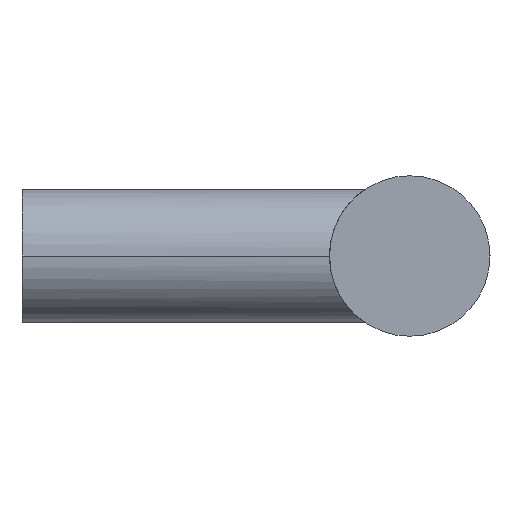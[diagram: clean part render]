
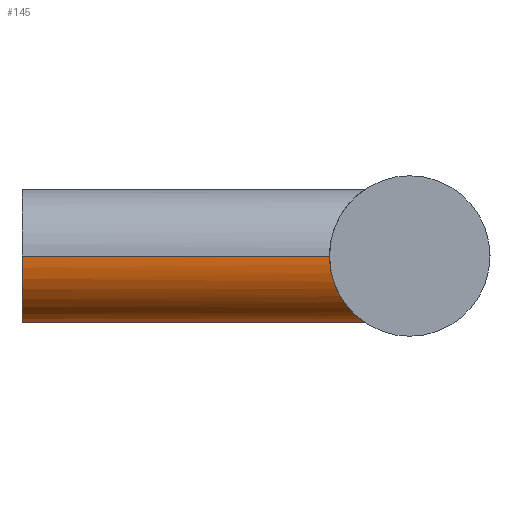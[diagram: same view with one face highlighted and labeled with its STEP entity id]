
A CAD part, left-side view. The second image highlights one B-rep face of the part: STEP entity #145.
In plain terms, the highlighted cylindrical face has radius 5 mm (diameter 10 mm), a partial arc.
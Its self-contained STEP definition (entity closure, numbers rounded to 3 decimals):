
#95 = EDGE_CURVE( '', #135, #163, #253, .T. );
#135 = VERTEX_POINT( '', #302 );
#137 = VERTEX_POINT( '', #304 );
#141 = EDGE_CURVE( '', #135, #181, #308, .T. );
#145 = ADVANCED_FACE( '', ( #312 ), #313, .T. );
#161 = EDGE_CURVE( '', #137, #163, #329, .T. );
#163 = VERTEX_POINT( '', #331 );
#181 = VERTEX_POINT( '', #355 );
#189 = EDGE_CURVE( '', #137, #181, #363, .T. );
#253 = LINE( '', #422, #423 );
#302 = CARTESIAN_POINT( '', ( 5., 0., 0. ) );
#304 = CARTESIAN_POINT( '', ( -5., -23., 0. ) );
#308 = CIRCLE( '', #519, 5. );
#312 = FACE_OUTER_BOUND( '', #524, .T. );
#313 = CYLINDRICAL_SURFACE( '', #525, 5. );
#329 = B_SPLINE_CURVE_WITH_KNOTS( '', 3, ( #549, #550, #551, #552, #553, #554, #555, #556, #557, #558, #559, #560, #561, #562, #563, #564, #565, #566, #567, #568, #569, #570, #571, #572, #573, #574, #575, #576, #577, #578, #579, #580, #581, #582 ), .UNSPECIFIED., .F., .F., ( 4, 2, 2, 2, 2, 2, 2, 2, 2, 2, 2, 2, 2, 2, 2, 2, 4 ), ( 8.161, 9.16, 10.159, 11.158, 12.157, 13.198, 14.239, 15.28, 16.322, 17.363, 18.404, 19.446, 20.487, 21.486, 22.485, 23.484, 24.483 ), .UNSPECIFIED. );
#331 = CARTESIAN_POINT( '', ( 5., -23., 0. ) );
#355 = CARTESIAN_POINT( '', ( -5., 0., 0. ) );
#363 = LINE( '', #639, #640 );
#422 = CARTESIAN_POINT( '', ( 5., 0., 0. ) );
#423 = VECTOR( '', #758, 1. );
#519 = AXIS2_PLACEMENT_3D( '', #833, #834, #835 );
#524 = EDGE_LOOP( '', ( #840, #841, #842, #843 ) );
#525 = AXIS2_PLACEMENT_3D( '', #844, #845, #846 );
#549 = CARTESIAN_POINT( '', ( -5., -23., 0. ) );
#550 = CARTESIAN_POINT( '', ( -5., -23., -0.333 ) );
#551 = CARTESIAN_POINT( '', ( -4.966, -23.028, -0.672 ) );
#552 = CARTESIAN_POINT( '', ( -4.83, -23.141, -1.335 ) );
#553 = CARTESIAN_POINT( '', ( -4.728, -23.225, -1.659 ) );
#554 = CARTESIAN_POINT( '', ( -4.467, -23.437, -2.272 ) );
#555 = CARTESIAN_POINT( '', ( -4.306, -23.566, -2.561 ) );
#556 = CARTESIAN_POINT( '', ( -3.946, -23.847, -3.088 ) );
#557 = CARTESIAN_POINT( '', ( -3.745, -24., -3.326 ) );
#558 = CARTESIAN_POINT( '', ( -3.317, -24.311, -3.754 ) );
#559 = CARTESIAN_POINT( '', ( -3.073, -24.483, -3.957 ) );
#560 = CARTESIAN_POINT( '', ( -2.544, -24.825, -4.316 ) );
#561 = CARTESIAN_POINT( '', ( -2.259, -24.995, -4.472 ) );
#562 = CARTESIAN_POINT( '', ( -1.659, -25.301, -4.728 ) );
#563 = CARTESIAN_POINT( '', ( -1.343, -25.436, -4.828 ) );
#564 = CARTESIAN_POINT( '', ( -0.687, -25.627, -4.964 ) );
#565 = CARTESIAN_POINT( '', ( -0.347, -25.683, -5. ) );
#566 = CARTESIAN_POINT( '', ( 0.347, -25.683, -5. ) );
#567 = CARTESIAN_POINT( '', ( 0.687, -25.627, -4.964 ) );
#568 = CARTESIAN_POINT( '', ( 1.343, -25.436, -4.828 ) );
#569 = CARTESIAN_POINT( '', ( 1.659, -25.301, -4.728 ) );
#570 = CARTESIAN_POINT( '', ( 2.259, -24.995, -4.472 ) );
#571 = CARTESIAN_POINT( '', ( 2.544, -24.825, -4.316 ) );
#572 = CARTESIAN_POINT( '', ( 3.073, -24.483, -3.957 ) );
#573 = CARTESIAN_POINT( '', ( 3.317, -24.311, -3.754 ) );
#574 = CARTESIAN_POINT( '', ( 3.745, -24., -3.326 ) );
#575 = CARTESIAN_POINT( '', ( 3.946, -23.847, -3.088 ) );
#576 = CARTESIAN_POINT( '', ( 4.306, -23.566, -2.561 ) );
#577 = CARTESIAN_POINT( '', ( 4.467, -23.437, -2.272 ) );
#578 = CARTESIAN_POINT( '', ( 4.728, -23.225, -1.659 ) );
#579 = CARTESIAN_POINT( '', ( 4.83, -23.141, -1.335 ) );
#580 = CARTESIAN_POINT( '', ( 4.966, -23.028, -0.672 ) );
#581 = CARTESIAN_POINT( '', ( 5., -23., -0.333 ) );
#582 = CARTESIAN_POINT( '', ( 5., -23., 0. ) );
#639 = CARTESIAN_POINT( '', ( -5., 0., 0. ) );
#640 = VECTOR( '', #893, 1. );
#758 = DIRECTION( '', ( 0., -1., 0. ) );
#833 = CARTESIAN_POINT( '', ( 0., 0., 0. ) );
#834 = DIRECTION( '', ( 0., 1., 0. ) );
#835 = DIRECTION( '', ( 1., 0., 0. ) );
#840 = ORIENTED_EDGE( '', *, *, #95, .T. );
#841 = ORIENTED_EDGE( '', *, *, #161, .F. );
#842 = ORIENTED_EDGE( '', *, *, #189, .T. );
#843 = ORIENTED_EDGE( '', *, *, #141, .F. );
#844 = CARTESIAN_POINT( '', ( 0., 0., 0. ) );
#845 = DIRECTION( '', ( 0., 1., 0. ) );
#846 = DIRECTION( '', ( 1., 0., 0. ) );
#893 = DIRECTION( '', ( 0., 1., 0. ) );
